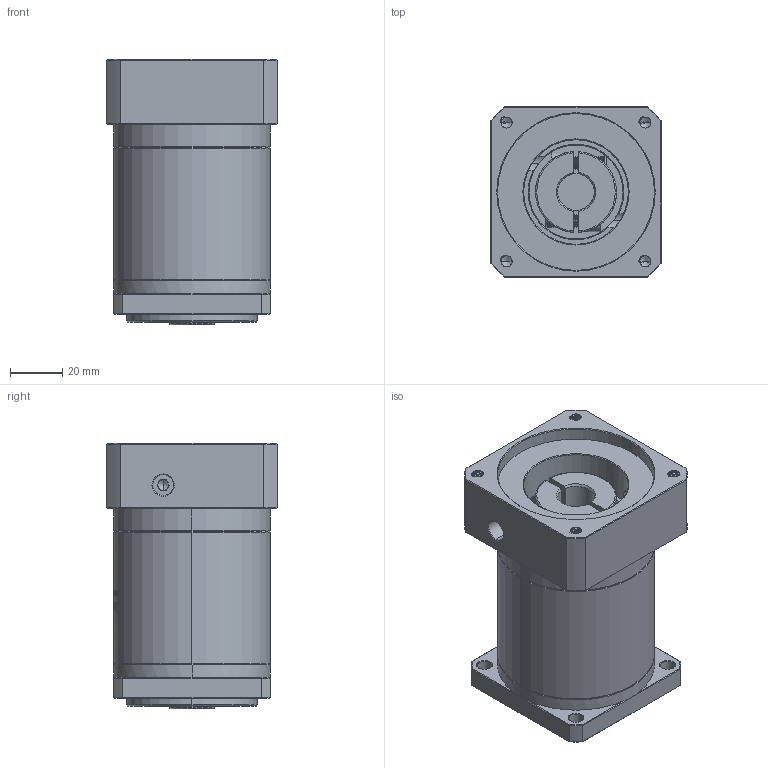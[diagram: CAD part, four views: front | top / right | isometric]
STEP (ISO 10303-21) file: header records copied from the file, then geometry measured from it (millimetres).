
FILE_DESCRIPTION (( 'STEP AP214' ), '1' );
FILE_NAME ('ZF060-K10-L2-P2-14-60-75-M5.step', '2023-08-16T04:31:24', ( '' ), ( '' ), 'SwSTEP 2.0', 'SolidWorks 2016', '' );
FILE_SCHEMA (( 'AUTOMOTIVE_DESIGN' ));
Length unit declared in the file: millimetre
Products named in the file (1): ZF060-K10-L2-P2-14-60-75-M5
Bounding box: 65 x 65 x 101.5 mm (x, y, z)
Volume: 276213.1 mm3; surface area: 48837.5 mm2
Topology: 6 solids, 6 shells, 1706 faces, 4625 edges, 3002 vertices
Faces by surface type: plane 792, bspline 347, cylinder 321, cone 228, torus 18
Entity records: 95322 total; most frequent: CARTESIAN_POINT 37571, ORIENTED_EDGE 9226, DIRECTION 6641, EDGE_CURVE 4613, VERTEX_POINT 3002, VECTOR 2377, LINE 2377, AXIS2_PLACEMENT_3D 2132
